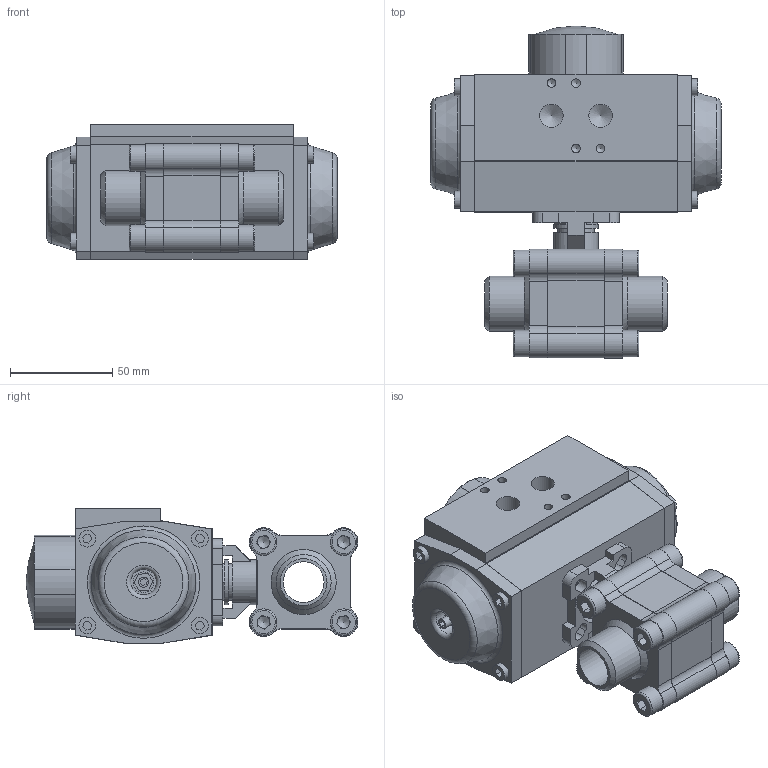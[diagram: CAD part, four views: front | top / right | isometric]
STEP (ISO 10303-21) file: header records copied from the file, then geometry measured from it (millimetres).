
FILE_DESCRIPTION (( 'STEP AP214' ), '1' );
FILE_NAME ('S33D BW DN20 + AP1.STEP', '2025-08-13T08:43:31', ( '' ), ( '' ), 'SwSTEP 2.0', 'SolidWorks 2021', '' );
FILE_SCHEMA (( 'AUTOMOTIVE_DESIGN' ));
Length unit declared in the file: millimetre
Products named in the file (6): S33D DN20 Buttweld; S33D KK DN20 PN100; S33D BW DN20 + AP1; socket head cap screw_din_DIN 912 M8 x 20 --- 20N; AP1_Default<As Machined>; S33D Flens Buttweld DN20
Assembly tree (13 placements, depth 3):
  S33D BW DN20 + AP1
    S33D DN20 Buttweld
      S33D KK DN20 PN100
      S33D Flens Buttweld DN20  x2
      socket head cap screw_din_DIN 912 M8 x 20 --- 20N  x8
    AP1_Default<As Machined>
Bounding box: 142 x 162.37 x 66 mm (x, y, z)
Volume: 692109.9 mm3; surface area: 111049.9 mm2
Topology: 22 solids, 22 shells, 567 faces, 1361 edges, 878 vertices
Faces by surface type: plane 380, cylinder 124, cone 40, torus 22, sphere 1
Full cylindrical faces by diameter (mm): 4.2 x12, 5 x8, 6.6 x4, 8 x8, 8.2 x8, 8.5 x8, 10.06 x1, 11.445 x2, 12.5 x2, 13 x8, 18 x1, 20 x3, 22 x2, 25 x1, 26.9 x2, 27 x1, 45.8 x1
Entity records: 12003 total; most frequent: DIRECTION 1887, CARTESIAN_POINT 1885, ORIENTED_EDGE 1718, EDGE_CURVE 859, VECTOR 647, LINE 647, AXIS2_PLACEMENT_3D 620, VERTEX_POINT 610
